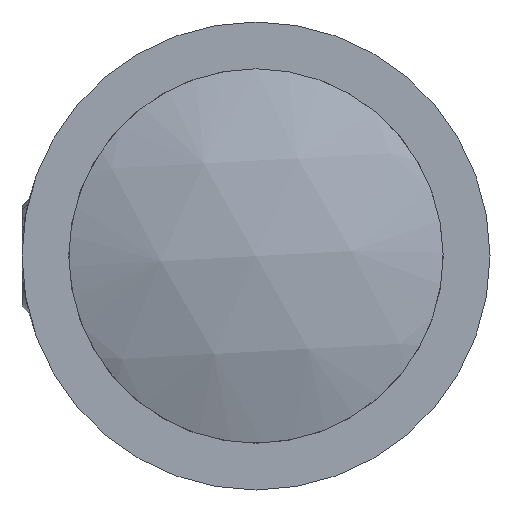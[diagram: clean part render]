
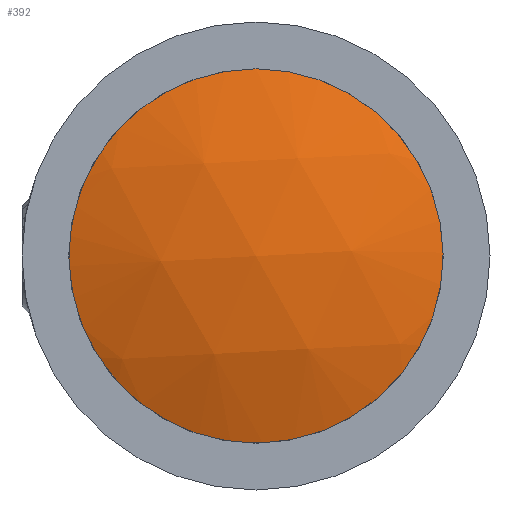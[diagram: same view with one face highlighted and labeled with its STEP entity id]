
A CAD part, left-side view. The second image highlights one B-rep face of the part: STEP entity #392.
In plain terms, the highlighted spherical face has radius 15.6 mm.
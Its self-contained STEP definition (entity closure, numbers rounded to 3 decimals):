
#369=CARTESIAN_POINT('',(1.5,5.991,-0.324));
#370=VERTEX_POINT('',#369);
#371=CARTESIAN_POINT('',(1.5,0.,0.0));
#372=DIRECTION('',(1.0,0.0,0.0));
#373=DIRECTION('',(0.0,0.0,1.0));
#374=AXIS2_PLACEMENT_3D('',#371,#372,#373);
#375=CIRCLE('',#374,6.);
#376=EDGE_CURVE('',#370,#370,#375,.T.);
#384=CARTESIAN_POINT('',(15.9,0.,0.));
#385=DIRECTION('',(0.,0.054,0.999));
#386=DIRECTION('',(1.0,0.0,0.0));
#387=AXIS2_PLACEMENT_3D('',#384,#385,#386);
#388=SPHERICAL_SURFACE('',#387,15.6);
#389=ORIENTED_EDGE('',*,*,#376,.F.);
#390=EDGE_LOOP('',(#389));
#391=FACE_OUTER_BOUND('',#390,.T.);
#392=ADVANCED_FACE('',(#391),#388,.T.);
